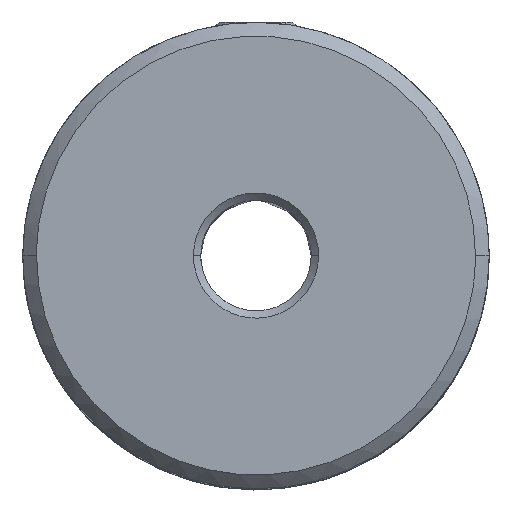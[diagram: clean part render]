
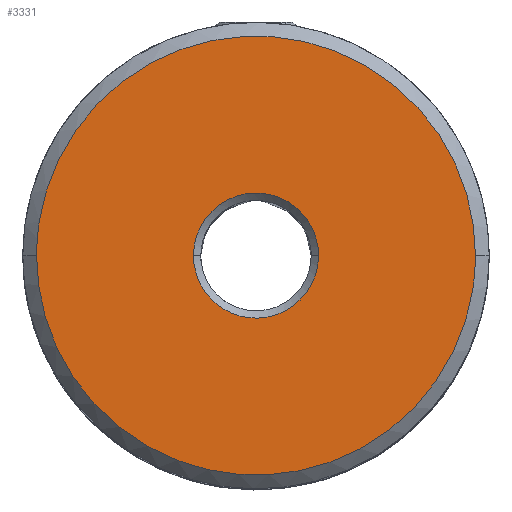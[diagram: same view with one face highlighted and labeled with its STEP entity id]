
A CAD part, top view. The second image highlights one B-rep face of the part: STEP entity #3331.
In plain terms, the highlighted free-form (B-spline) face has degree [3, 3] with [4, 4] control points.
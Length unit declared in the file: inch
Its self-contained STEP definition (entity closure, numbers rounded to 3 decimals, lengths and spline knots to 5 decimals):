
#220=CARTESIAN_POINT('',(0.46949,-0.00003,0.75));
#221=CARTESIAN_POINT('',(0.46949,0.02763,0.75));
#222=CARTESIAN_POINT('',(0.46457,0.08503,0.75));
#223=CARTESIAN_POINT('',(0.43966,0.17332,0.75));
#224=CARTESIAN_POINT('',(0.39593,0.2584,0.75));
#225=CARTESIAN_POINT('',(0.33438,0.33435,0.75));
#226=CARTESIAN_POINT('',(0.27109,0.38563,0.75));
#227=CARTESIAN_POINT('',(0.21589,0.41778,0.75));
#228=CARTESIAN_POINT('',(0.17295,0.43727,0.75));
#229=CARTESIAN_POINT('',(0.1292,0.4521,0.75));
#230=CARTESIAN_POINT('',(0.08534,0.46235,0.75));
#231=CARTESIAN_POINT('',(0.04924,0.46725,0.75));
#232=CARTESIAN_POINT('',(0.02086,0.46915,0.75));
#233=CARTESIAN_POINT('',(0.,0.46961,0.75));
#234=CARTESIAN_POINT('',(-0.02086,0.46915,0.75));
#235=CARTESIAN_POINT('',(-0.04924,0.46725,0.75));
#236=CARTESIAN_POINT('',(-0.08534,0.46235,0.75));
#237=CARTESIAN_POINT('',(-0.1292,0.4521,0.75));
#238=CARTESIAN_POINT('',(-0.17295,0.43727,0.75));
#239=CARTESIAN_POINT('',(-0.21589,0.41778,0.75));
#240=CARTESIAN_POINT('',(-0.27109,0.38563,0.75));
#241=CARTESIAN_POINT('',(-0.33438,0.33435,0.75));
#242=CARTESIAN_POINT('',(-0.39593,0.2584,0.75));
#243=CARTESIAN_POINT('',(-0.43966,0.17332,0.75));
#244=CARTESIAN_POINT('',(-0.46457,0.08503,0.75));
#245=CARTESIAN_POINT('',(-0.46949,0.02763,0.75));
#246=CARTESIAN_POINT('',(-0.46949,-0.00003,0.75));
#248=CARTESIAN_POINT('',(-0.46949,-0.00003,0.75));
#249=CARTESIAN_POINT('',(-0.46949,-0.0277,0.75));
#250=CARTESIAN_POINT('',(-0.46457,-0.0851,0.75));
#251=CARTESIAN_POINT('',(-0.43966,-0.17338,0.75));
#252=CARTESIAN_POINT('',(-0.39593,-0.25846,0.75));
#253=CARTESIAN_POINT('',(-0.33438,-0.33441,0.75));
#254=CARTESIAN_POINT('',(-0.27109,-0.38569,0.75));
#255=CARTESIAN_POINT('',(-0.21589,-0.41784,0.75));
#256=CARTESIAN_POINT('',(-0.17295,-0.43733,0.75));
#257=CARTESIAN_POINT('',(-0.1292,-0.45216,0.75));
#258=CARTESIAN_POINT('',(-0.08534,-0.46241,0.75));
#259=CARTESIAN_POINT('',(-0.04924,-0.46731,0.75));
#260=CARTESIAN_POINT('',(-0.02086,-0.46921,0.75));
#261=CARTESIAN_POINT('',(0.,-0.46967,0.75));
#262=CARTESIAN_POINT('',(0.02086,-0.46921,0.75));
#263=CARTESIAN_POINT('',(0.04924,-0.46731,0.75));
#264=CARTESIAN_POINT('',(0.08534,-0.46241,0.75));
#265=CARTESIAN_POINT('',(0.1292,-0.45216,0.75));
#266=CARTESIAN_POINT('',(0.17295,-0.43733,0.75));
#267=CARTESIAN_POINT('',(0.21589,-0.41784,0.75));
#268=CARTESIAN_POINT('',(0.27109,-0.38569,0.75));
#269=CARTESIAN_POINT('',(0.33438,-0.33441,0.75));
#270=CARTESIAN_POINT('',(0.39593,-0.25846,0.75));
#271=CARTESIAN_POINT('',(0.43966,-0.17338,0.75));
#272=CARTESIAN_POINT('',(0.46457,-0.0851,0.75));
#273=CARTESIAN_POINT('',(0.46949,-0.0277,0.75));
#274=CARTESIAN_POINT('',(0.46949,-0.00003,0.75));
#276=CARTESIAN_POINT('',(0.13386,-0.00003,0.75));
#277=CARTESIAN_POINT('',(0.13386,-0.00792,0.75));
#278=CARTESIAN_POINT('',(0.13246,-0.02428,0.75));
#279=CARTESIAN_POINT('',(0.12535,-0.04946,0.75));
#280=CARTESIAN_POINT('',(0.11289,-0.07371,0.75));
#281=CARTESIAN_POINT('',(0.09534,-0.09537,0.75));
#282=CARTESIAN_POINT('',(0.07368,-0.11292,0.75));
#283=CARTESIAN_POINT('',(0.04942,-0.12539,0.75));
#284=CARTESIAN_POINT('',(0.02846,-0.1313,0.75));
#285=CARTESIAN_POINT('',(0.01196,-0.13354,0.75));
#286=CARTESIAN_POINT('',(0.,-0.13406,0.75));
#287=CARTESIAN_POINT('',(-0.01196,-0.13354,0.75));
#288=CARTESIAN_POINT('',(-0.02846,-0.1313,0.75));
#289=CARTESIAN_POINT('',(-0.04942,-0.12539,0.75));
#290=CARTESIAN_POINT('',(-0.07368,-0.11292,0.75));
#291=CARTESIAN_POINT('',(-0.09534,-0.09537,0.75));
#292=CARTESIAN_POINT('',(-0.11289,-0.07371,0.75));
#293=CARTESIAN_POINT('',(-0.12535,-0.04946,0.75));
#294=CARTESIAN_POINT('',(-0.13246,-0.02428,0.75));
#295=CARTESIAN_POINT('',(-0.13386,-0.00792,0.75));
#296=CARTESIAN_POINT('',(-0.13386,-0.00003,0.75));
#298=CARTESIAN_POINT('',(-0.13386,-0.00003,0.75));
#299=CARTESIAN_POINT('',(-0.13386,0.00786,0.75));
#300=CARTESIAN_POINT('',(-0.13246,0.02422,0.75));
#301=CARTESIAN_POINT('',(-0.12535,0.04939,0.75));
#302=CARTESIAN_POINT('',(-0.11289,0.07365,0.75));
#303=CARTESIAN_POINT('',(-0.09534,0.09531,0.75));
#304=CARTESIAN_POINT('',(-0.07368,0.11285,0.75));
#305=CARTESIAN_POINT('',(-0.04942,0.12532,0.75));
#306=CARTESIAN_POINT('',(-0.02846,0.13124,0.75));
#307=CARTESIAN_POINT('',(-0.01196,0.13348,0.75));
#308=CARTESIAN_POINT('',(0.,0.134,0.75));
#309=CARTESIAN_POINT('',(0.01196,0.13348,0.75));
#310=CARTESIAN_POINT('',(0.02846,0.13124,0.75));
#311=CARTESIAN_POINT('',(0.04942,0.12532,0.75));
#312=CARTESIAN_POINT('',(0.07368,0.11285,0.75));
#313=CARTESIAN_POINT('',(0.09534,0.09531,0.75));
#314=CARTESIAN_POINT('',(0.11289,0.07365,0.75));
#315=CARTESIAN_POINT('',(0.12535,0.04939,0.75));
#316=CARTESIAN_POINT('',(0.13246,0.02422,0.75));
#317=CARTESIAN_POINT('',(0.13386,0.00786,0.75));
#318=CARTESIAN_POINT('',(0.13386,-0.00003,0.75));
#320=CARTESIAN_POINT('',(0.46949,-0.00003,0.75));
#353=CARTESIAN_POINT('',(-0.46949,-0.00003,0.75));
#1776=CARTESIAN_POINT('',(-0.13386,-0.00003,0.75));
#1781=CARTESIAN_POINT('',(0.13386,-0.00003,0.75));
#3105=VERTEX_POINT('',#1781);
#3107=VERTEX_POINT('',#1776);
#3128=VERTEX_POINT('',#353);
#3129=VERTEX_POINT('',#320);
#3303=CARTESIAN_POINT('',(-0.48827,-0.48869,0.75));
#3304=CARTESIAN_POINT('',(-0.48827,-0.16292,0.75));
#3305=CARTESIAN_POINT('',(-0.48827,0.16286,0.75));
#3306=CARTESIAN_POINT('',(-0.48827,0.48863,0.75));
#3307=CARTESIAN_POINT('',(-0.16276,-0.48869,0.75));
#3308=CARTESIAN_POINT('',(-0.16276,-0.16292,0.75));
#3309=CARTESIAN_POINT('',(-0.16276,0.16286,0.75));
#3310=CARTESIAN_POINT('',(-0.16276,0.48863,0.75));
#3311=CARTESIAN_POINT('',(0.16276,-0.48869,0.75));
#3312=CARTESIAN_POINT('',(0.16276,-0.16292,0.75));
#3313=CARTESIAN_POINT('',(0.16276,0.16286,0.75));
#3314=CARTESIAN_POINT('',(0.16276,0.48863,0.75));
#3315=CARTESIAN_POINT('',(0.48827,-0.48869,0.75));
#3316=CARTESIAN_POINT('',(0.48827,-0.16292,0.75));
#3317=CARTESIAN_POINT('',(0.48827,0.16286,0.75));
#3318=CARTESIAN_POINT('',(0.48827,0.48863,0.75));
#3319=B_SPLINE_SURFACE_WITH_KNOTS('',3,3,((#3303,#3304,#3305,#3306),(#3307,
#3308,#3309,#3310),(#3311,#3312,#3313,#3314),(#3315,#3316,#3317,#3318)),
.UNSPECIFIED.,.F.,.F.,.F.,(4,4),(4,4),(-1.2402,1.2402),(-1.2412,
1.2412),.UNSPECIFIED.);
#3320=ORIENTED_EDGE('',*,*,#3293,.F.);
#3322=ORIENTED_EDGE('',*,*,#3321,.F.);
#3323=EDGE_LOOP('',(#3320,#3322));
#3324=FACE_OUTER_BOUND('',#3323,.F.);
#3326=ORIENTED_EDGE('',*,*,#3325,.F.);
#3328=ORIENTED_EDGE('',*,*,#3327,.F.);
#3329=EDGE_LOOP('',(#3326,#3328));
#3330=FACE_BOUND('',#3329,.F.);
#247=B_SPLINE_CURVE_WITH_KNOTS('',3,(#220,#221,#222,#223,#224,#225,#226,#227,
#228,#229,#230,#231,#232,#233,#234,#235,#236,#237,#238,#239,#240,#241,#242,#243,
#244,#245,#246),.UNSPECIFIED.,.F.,.F.,(4,1,1,1,1,1,1,1,1,1,1,1,1,1,1,1,1,1,1,1,
1,1,1,1,4),(0.,0.0625,0.125,0.1875,0.25,0.3125,0.34375,0.375,
0.40625,0.4375,0.46875,0.48438,0.5,0.51563,0.53125,0.5625,
0.59375,0.625,0.65625,0.6875,0.75,0.8125,0.875,0.9375,1.),
.UNSPECIFIED.);
#275=B_SPLINE_CURVE_WITH_KNOTS('',3,(#248,#249,#250,#251,#252,#253,#254,#255,
#256,#257,#258,#259,#260,#261,#262,#263,#264,#265,#266,#267,#268,#269,#270,#271,
#272,#273,#274),.UNSPECIFIED.,.F.,.F.,(4,1,1,1,1,1,1,1,1,1,1,1,1,1,1,1,1,1,1,1,
1,1,1,1,4),(0.,0.0625,0.125,0.1875,0.25,0.3125,0.34375,0.375,
0.40625,0.4375,0.46875,0.48438,0.5,0.51563,0.53125,0.5625,
0.59375,0.625,0.65625,0.6875,0.75,0.8125,0.875,0.9375,1.),
.UNSPECIFIED.);
#297=B_SPLINE_CURVE_WITH_KNOTS('',3,(#276,#277,#278,#279,#280,#281,#282,#283,
#284,#285,#286,#287,#288,#289,#290,#291,#292,#293,#294,#295,#296),.UNSPECIFIED.,
.F.,.F.,(4,1,1,1,1,1,1,1,1,1,1,1,1,1,1,1,1,1,4),(0.,0.0625,0.125,0.1875,
0.25,0.3125,0.375,0.4375,0.46875,0.5,0.53125,0.5625,0.625,
0.6875,0.75,0.8125,0.875,0.9375,1.),.UNSPECIFIED.);
#319=B_SPLINE_CURVE_WITH_KNOTS('',3,(#298,#299,#300,#301,#302,#303,#304,#305,
#306,#307,#308,#309,#310,#311,#312,#313,#314,#315,#316,#317,#318),.UNSPECIFIED.,
.F.,.F.,(4,1,1,1,1,1,1,1,1,1,1,1,1,1,1,1,1,1,4),(0.,0.0625,0.125,0.1875,
0.25,0.3125,0.375,0.4375,0.46875,0.5,0.53125,0.5625,0.625,
0.6875,0.75,0.8125,0.875,0.9375,1.),.UNSPECIFIED.);
#3293=EDGE_CURVE('',#3129,#3128,#247,.T.);
#3321=EDGE_CURVE('',#3128,#3129,#275,.T.);
#3325=EDGE_CURVE('',#3105,#3107,#297,.T.);
#3327=EDGE_CURVE('',#3107,#3105,#319,.T.);
#3331=ADVANCED_FACE('',(#3324,#3330),#3319,.T.);
